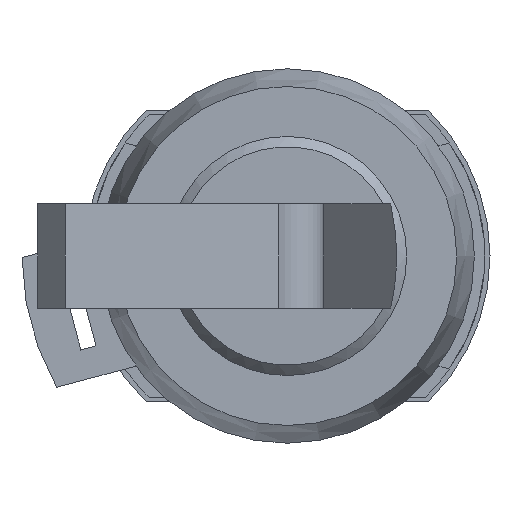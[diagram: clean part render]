
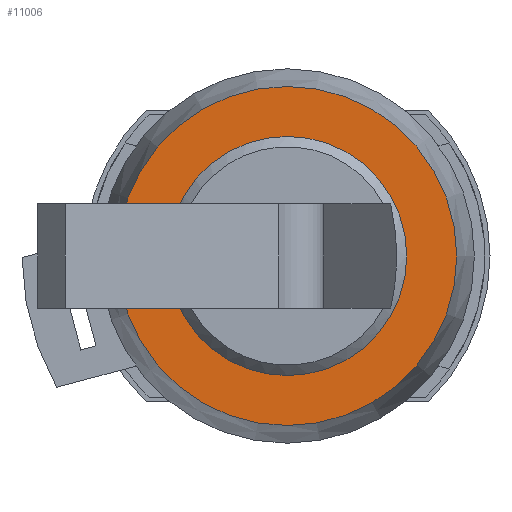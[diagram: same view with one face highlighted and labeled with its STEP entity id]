
A CAD part, left-side view. The second image highlights one B-rep face of the part: STEP entity #11006.
In plain terms, the highlighted planar face has unit normal (-1, 0, 0).
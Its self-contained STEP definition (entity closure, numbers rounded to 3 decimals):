
#24 = EDGE_LOOP ( 'NONE', ( #2388 ) ) ;
#684 = EDGE_CURVE ( 'NONE', #10852, #10852, #4516, .T. ) ;
#687 = EDGE_CURVE ( 'NONE', #10858, #10858, #4520, .T. ) ;
#1267 = EDGE_LOOP ( 'NONE', ( #2387 ) ) ;
#1896 = AXIS2_PLACEMENT_3D ( 'NONE', #5719, #5726, #5727 ) ;
#1899 = AXIS2_PLACEMENT_3D ( 'NONE', #5728, #5733, #5734 ) ;
#2046 = AXIS2_PLACEMENT_3D ( 'NONE', #9001, #9011, #9012 ) ;
#2387 = ORIENTED_EDGE ( 'NONE', *, *, #684, .T. ) ;
#2388 = ORIENTED_EDGE ( 'NONE', *, *, #687, .F. ) ;
#4516 = CIRCLE ( 'NONE', #1896, 11.5 ) ;
#4520 = CIRCLE ( 'NONE', #1899, 16.3 ) ;
#5719 = CARTESIAN_POINT ( 'NONE',  ( 0., 56.837, 0. ) ) ;
#5726 = DIRECTION ( 'NONE',  ( 1., 0., 0. ) ) ;
#5727 = DIRECTION ( 'NONE',  ( 0., 1., 0. ) ) ;
#5728 = CARTESIAN_POINT ( 'NONE',  ( 0., 56.837, 0. ) ) ;
#5733 = DIRECTION ( 'NONE',  ( 1., 0., 0. ) ) ;
#5734 = DIRECTION ( 'NONE',  ( 0., 1., 0. ) ) ;
#8010 = FACE_BOUND ( 'NONE', #1267, .T. ) ;
#8016 = FACE_OUTER_BOUND ( 'NONE', #24, .T. ) ;
#9001 = CARTESIAN_POINT ( 'NONE',  ( 0., 70.737, 0. ) ) ;
#9010 = PLANE ( 'NONE',  #2046 ) ;
#9011 = DIRECTION ( 'NONE',  ( -1., 0., 0. ) ) ;
#9012 = DIRECTION ( 'NONE',  ( 0., -1., 0. ) ) ;
#10852 = VERTEX_POINT ( 'NONE', #10853 ) ;
#10853 = CARTESIAN_POINT ( 'NONE',  ( 0., 68.337, 0. ) ) ;
#10858 = VERTEX_POINT ( 'NONE', #10859 ) ;
#10859 = CARTESIAN_POINT ( 'NONE',  ( 0., 73.136, 0. ) ) ;
#11006 = ADVANCED_FACE ( 'NONE', ( #8010, #8016 ), #9010, .T. ) ;
